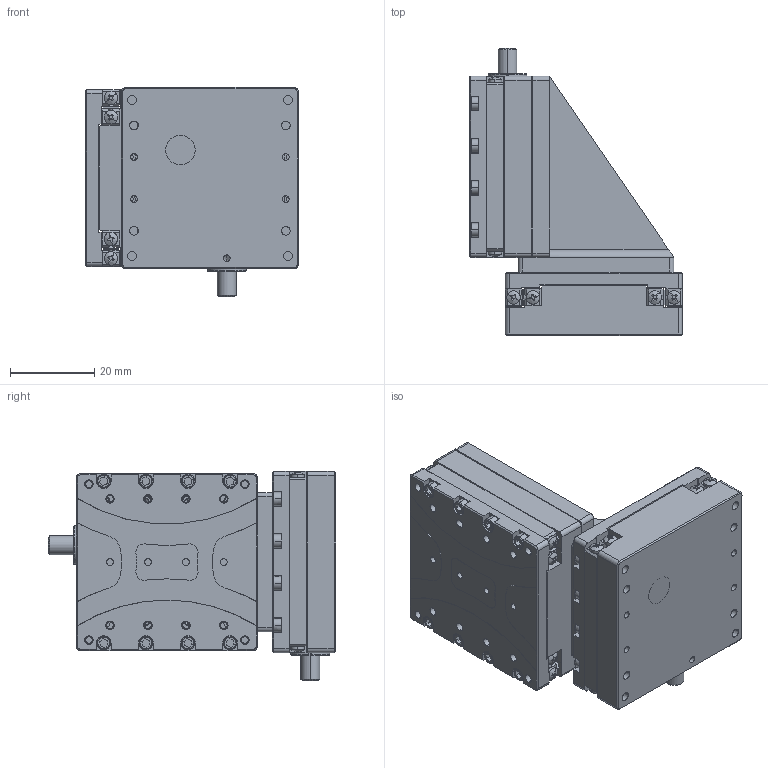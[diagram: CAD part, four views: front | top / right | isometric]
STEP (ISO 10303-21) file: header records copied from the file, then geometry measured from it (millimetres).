
FILE_DESCRIPTION (( 'STEP AP214' ), '1' );
FILE_NAME ('N56.XZ20E-B1闭环二维直线压电马达3D图（25.08.01）.STEP', '2026-05-27T00:52:42', ( '微软用户' ), ( '微软中国' ), 'SwSTEP 2.0', 'SolidWorks 2016', '' );
FILE_SCHEMA (( 'AUTOMOTIVE_DESIGN' ));
Length unit declared in the file: millimetre
Products named in the file (1): N56.XZ20E-B1闭环二维直线压电马达3D图（25.08.01）
Bounding box: 50.5 x 68.1 x 49.6 mm (x, y, z)
Volume: 52699.1 mm3; surface area: 42817.4 mm2
Topology: 103 solids, 103 shells, 2407 faces, 6049 edges, 3930 vertices
Faces by surface type: plane 1179, cylinder 1004, cone 144, bspline 80
Entity records: 101442 total; most frequent: CARTESIAN_POINT 15337, DIRECTION 12375, ORIENTED_EDGE 11922, EDGE_CURVE 5961, AXIS2_PLACEMENT_3D 4580, VERTEX_POINT 3930, VECTOR 3215, LINE 3215
